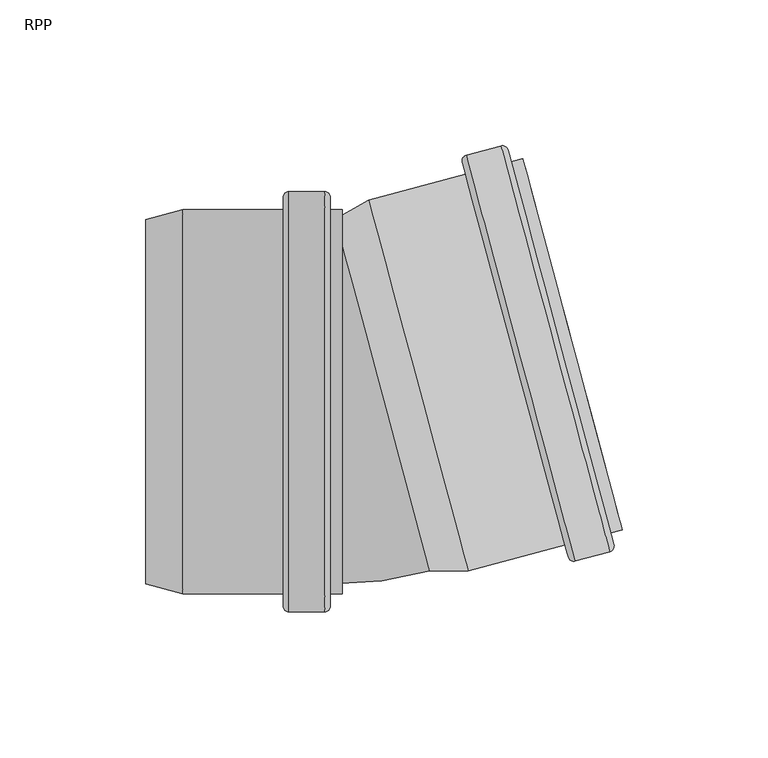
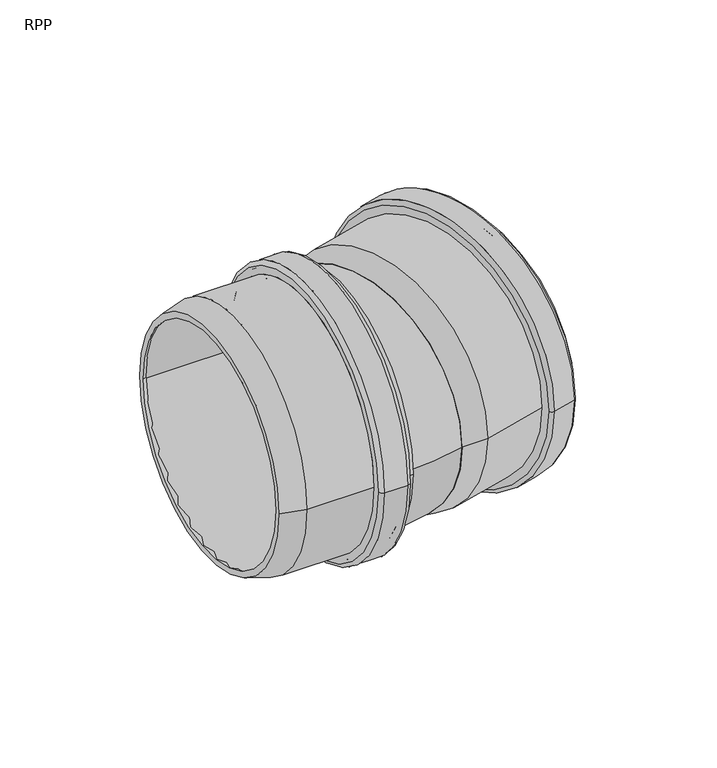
"""IFC4 building model written with IfcOpenShell, lengths in millimetres: pipe fitting geometry, RAUPIANO PLUS Bend : RPP."""

from ifc_helpers import new_model, si_unit, point, frame, origin, place, context, project, spatial, polyline, circle_curve, ellipse_curve, trimmed, source, transform, mapped, element, save
from ifc_brep_helpers import plane_surface, cylinder_surface, revolved_surface, advanced_brep


def rpp_2288d6af(model_context):
    return source(origin(), model_context, "Body", "AdvancedBrep", [
        advanced_brep(
        [(-22.5548911, -62.8, 0.0), (-22.5548911, 62.8, 0.0), (-59.6577956, 62.8, 0.0), (-59.6577956, -62.8, 0.0), (-22.0548911, -69.0, 0.0), (-22.0548911, 69.0, 0.0), (-22.5548911, 68.5, 0.0), (-22.5548911, -68.5, 0.0), (-13.0548911, -69.0, 0.0), (-13.0548911, 69.0, 0.0), (-12.5548911, -68.5, 0.0), (-12.5548911, 68.5, 0.0), (-5.3548911, -62.8, 0.0), (-5.3548911, 62.8, 0.0), (-12.5548911, 62.8, 0.0), (-12.5548911, -62.8, 0.0), (-9.4548911, -65.9, 0.0), (-9.4548911, 65.9, 0.0), (-5.3548911, 65.9, 0.0), (-5.3548911, -65.9, 0.0), (-11.4548911, -72.1, 0.0), (-11.4548911, 72.1, 0.0), (-9.4548911, 70.1, 0.0), (-9.4548911, -70.1, 0.0), (-23.6548911, -72.1, 0.0), (-23.6548911, 72.1, 0.0), (-25.6548911, -70.1, 0.0), (-25.6548911, 70.1, 0.0), (-60.0659183, -65.9, 0.0), (-60.0659183, 65.9, 0.0), (-25.6548911, 65.9, 0.0), (-25.6548911, -65.9, 0.0), (-72.7548911, -62.5, 0.0), (-72.7548911, 62.5, 0.0), (-72.7548911, 59.2906438, 0.0), (-72.7548911, -59.2906438, 0.0)],
        [
            (0, 1, circle_curve(frame((-22.5548911, 0.0, 0.0), z_axis=(1.0, 0.0, 0.0), x_axis=(0.0, 1.0, 0.0)), 62.8)),
            (1, 2),
            (2, 3, circle_curve(frame((-59.6577956, 0.0, 0.0), z_axis=(-1.0, 0.0, 0.0), x_axis=(0.0, 1.0, 0.0)), 62.8)),
            (3, 0),
            (4, 5, circle_curve(frame((-22.0548911, 0.0, 0.0), z_axis=(1.0, 0.0, 0.0), x_axis=(0.0, 1.0, 0.0)), 69.0)),
            (5, 6, circle_curve(frame((-22.0548911, 68.5, 0.0), z_axis=(0.0, 0.0, 1.0), x_axis=(0.0, -1.0, 0.0)), 0.5)),
            (6, 7, circle_curve(frame((-22.5548911, 0.0, 0.0), z_axis=(-1.0, 0.0, 0.0), x_axis=(0.0, 1.0, 0.0)), 68.5)),
            (7, 4, circle_curve(frame((-22.0548911, -68.5, 0.0), z_axis=(0.0, 0.0, 1.0), x_axis=(0.0, 1.0, 0.0)), 0.5)),
            (8, 9, circle_curve(frame((-13.0548911, 0.0, 0.0), z_axis=(1.0, 0.0, 0.0), x_axis=(0.0, 1.0, 0.0)), 69.0)),
            (9, 5),
            (4, 8),
            (10, 11, circle_curve(frame((-12.5548911, 0.0, 0.0), z_axis=(1.0, 0.0, 0.0), x_axis=(0.0, 1.0, 0.0)), 68.5)),
            (11, 9, circle_curve(frame((-13.0548911, 68.5, 0.0), z_axis=(0.0, 0.0, 1.0), x_axis=(0.0, -1.0, 0.0)), 0.5)),
            (8, 10, circle_curve(frame((-13.0548911, -68.5, 0.0), z_axis=(0.0, 0.0, 1.0), x_axis=(0.0, 1.0, 0.0)), 0.5)),
            (12, 13, circle_curve(frame((-5.3548911, 0.0, 0.0), z_axis=(1.0, 0.0, 0.0), x_axis=(0.0, 1.0, 0.0)), 62.8)),
            (13, 14),
            (14, 15, circle_curve(frame((-12.5548911, 0.0, 0.0), z_axis=(-1.0, 0.0, 0.0), x_axis=(0.0, 1.0, 0.0)), 62.8)),
            (15, 12),
            (16, 17, circle_curve(frame((-9.4548911, 0.0, 0.0), z_axis=(1.0, 0.0, 0.0), x_axis=(0.0, 1.0, 0.0)), 65.9)),
            (17, 18),
            (18, 19, circle_curve(frame((-5.3548911, 0.0, 0.0), z_axis=(-1.0, 0.0, 0.0), x_axis=(0.0, 1.0, 0.0)), 65.9)),
            (19, 16),
            (20, 21, circle_curve(frame((-11.4548911, 0.0, 0.0), z_axis=(1.0, 0.0, 0.0), x_axis=(0.0, 1.0, 0.0)), 72.1)),
            (21, 22, circle_curve(frame((-11.4548911, 70.1, 0.0), z_axis=(0.0, 0.0, -1.0), x_axis=(0.0, -1.0, 0.0)), 2.0)),
            (22, 23, circle_curve(frame((-9.4548911, 0.0, 0.0), z_axis=(-1.0, 0.0, 0.0), x_axis=(0.0, 1.0, 0.0)), 70.1)),
            (23, 20, circle_curve(frame((-11.4548911, -70.1, 0.0), z_axis=(0.0, 0.0, -1.0), x_axis=(0.0, 1.0, 0.0)), 2.0)),
            (24, 25, circle_curve(frame((-23.6548911, 0.0, 0.0), z_axis=(1.0, 0.0, 0.0), x_axis=(0.0, 1.0, 0.0)), 72.1)),
            (25, 21),
            (20, 24),
            (26, 27, circle_curve(frame((-25.6548911, 0.0, 0.0), z_axis=(1.0, 0.0, 0.0), x_axis=(0.0, 1.0, 0.0)), 70.1)),
            (27, 25, circle_curve(frame((-23.6548911, 70.1, 0.0), z_axis=(0.0, 0.0, -1.0), x_axis=(0.0, -1.0, 0.0)), 2.0)),
            (24, 26, circle_curve(frame((-23.6548911, -70.1, 0.0), z_axis=(0.0, 0.0, -1.0), x_axis=(0.0, 1.0, 0.0)), 2.0)),
            (28, 29, circle_curve(frame((-60.0659183, 0.0, 0.0), z_axis=(1.0, 0.0, 0.0), x_axis=(0.0, 1.0, 0.0)), 65.9)),
            (29, 30),
            (30, 31, circle_curve(frame((-25.6548911, 0.0, 0.0), z_axis=(-1.0, 0.0, 0.0), x_axis=(0.0, 1.0, 0.0)), 65.9)),
            (31, 28),
            (32, 33, circle_curve(frame((-72.7548911, 0.0, 0.0), z_axis=(1.0, 0.0, 0.0), x_axis=(0.0, 1.0, 0.0)), 62.5)),
            (33, 29),
            (28, 32),
            (2, 34),
            (34, 35, circle_curve(frame((-72.7548911, 0.0, 0.0), z_axis=(-1.0, 0.0, 0.0), x_axis=(0.0, 1.0, 0.0)), 59.2906438)),
            (35, 3),
            (1, 0, circle_curve(frame((-22.5548911, 0.0, 0.0), z_axis=(1.0, 0.0, 0.0), x_axis=(0.0, -1.0, 0.0)), 62.8)),
            (3, 2, circle_curve(frame((-59.6577956, 0.0, 0.0), z_axis=(-1.0, 0.0, 0.0), x_axis=(0.0, -1.0, 0.0)), 62.8)),
            (6, 7, circle_curve(frame((-22.5548911, 0.0, 0.0), z_axis=(1.0, 0.0, 0.0), x_axis=(0.0, -1.0, 0.0)), 68.5)),
            (5, 4, circle_curve(frame((-22.0548911, 0.0, 0.0), z_axis=(1.0, 0.0, 0.0), x_axis=(0.0, -1.0, 0.0)), 69.0)),
            (9, 8, circle_curve(frame((-13.0548911, 0.0, 0.0), z_axis=(1.0, 0.0, 0.0), x_axis=(0.0, -1.0, 0.0)), 69.0)),
            (11, 10, circle_curve(frame((-12.5548911, 0.0, 0.0), z_axis=(1.0, 0.0, 0.0), x_axis=(0.0, -1.0, 0.0)), 68.5)),
            (14, 15, circle_curve(frame((-12.5548911, 0.0, 0.0), z_axis=(1.0, 0.0, 0.0), x_axis=(0.0, -1.0, 0.0)), 62.8)),
            (13, 12, circle_curve(frame((-5.3548911, 0.0, 0.0), z_axis=(1.0, 0.0, 0.0), x_axis=(0.0, -1.0, 0.0)), 62.8)),
            (18, 19, circle_curve(frame((-5.3548911, 0.0, 0.0), z_axis=(1.0, 0.0, 0.0), x_axis=(0.0, -1.0, 0.0)), 65.9)),
            (17, 16, circle_curve(frame((-9.4548911, 0.0, 0.0), z_axis=(1.0, 0.0, 0.0), x_axis=(0.0, -1.0, 0.0)), 65.9)),
            (22, 23, circle_curve(frame((-9.4548911, 0.0, 0.0), z_axis=(1.0, 0.0, 0.0), x_axis=(0.0, -1.0, 0.0)), 70.1)),
            (21, 20, circle_curve(frame((-11.4548911, 0.0, 0.0), z_axis=(1.0, 0.0, 0.0), x_axis=(0.0, -1.0, 0.0)), 72.1)),
            (25, 24, circle_curve(frame((-23.6548911, 0.0, 0.0), z_axis=(1.0, 0.0, 0.0), x_axis=(0.0, -1.0, 0.0)), 72.1)),
            (27, 26, circle_curve(frame((-25.6548911, 0.0, 0.0), z_axis=(1.0, 0.0, 0.0), x_axis=(0.0, -1.0, 0.0)), 70.1)),
            (30, 31, circle_curve(frame((-25.6548911, 0.0, 0.0), z_axis=(1.0, 0.0, 0.0), x_axis=(0.0, -1.0, 0.0)), 65.9)),
            (29, 28, circle_curve(frame((-60.0659183, 0.0, 0.0), z_axis=(1.0, 0.0, 0.0), x_axis=(0.0, -1.0, 0.0)), 65.9)),
            (33, 32, circle_curve(frame((-72.7548911, 0.0, 0.0), z_axis=(1.0, 0.0, 0.0), x_axis=(0.0, -1.0, 0.0)), 62.5)),
            (34, 35, circle_curve(frame((-72.7548911, 0.0, 0.0), z_axis=(1.0, 0.0, 0.0), x_axis=(0.0, -1.0, 0.0)), 59.2906438)),
        ],
        [
            revolved_surface(polyline([(-59.6577956, 62.8, 0.0), (-22.5548911, 62.8, 0.0)]), (-72.7548911, 0.0, 0.0), (-1.0, 0.0, 0.0)),
            revolved_surface(trimmed(ellipse_curve(frame((-22.0548911, 68.5, 0.0), z_axis=(0.0, 0.0, -1.0), x_axis=(0.0, -1.0, 0.0)), 0.5, 0.5), [point((-22.5548911, 68.5, 0.0))], [point((-22.0548911, 69.0, 0.0))], True, "CARTESIAN"), (-72.7548911, 0.0, 0.0), (-1.0, 0.0, 0.0)),
            revolved_surface(polyline([(-22.0548911, 69.0, 0.0), (-13.054891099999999, 69.0, 0.0)]), (-72.7548911, 0.0, 0.0), (-1.0, 0.0, 0.0)),
            revolved_surface(trimmed(ellipse_curve(frame((-13.0548911, 68.5, 0.0), z_axis=(0.0, 0.0, -1.0), x_axis=(0.0, -1.0, 0.0)), 0.5, 0.5), [point((-13.0548911, 69.0, 0.0))], [point((-12.5548911, 68.5, 0.0))], True, "CARTESIAN"), (-72.7548911, 0.0, 0.0), (-1.0, 0.0, 0.0)),
            revolved_surface(polyline([(-12.554891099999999, 62.8, 0.0), (-5.354891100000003, 62.8, 0.0)]), (-72.7548911, 0.0, 0.0), (-1.0, 0.0, 0.0)),
            cylinder_surface(frame((-72.7548911, 0.0, 0.0), z_axis=(-1.0, 0.0, 0.0), x_axis=(0.0, 1.0, 0.0)), 65.9),
            revolved_surface(trimmed(ellipse_curve(frame((-11.4548911, 70.1, 0.0), z_axis=(0.0, 0.0, 1.0), x_axis=(0.0, -1.0, 0.0)), 2.0, 2.0), [point((-9.4548911, 70.1, 0.0))], [point((-11.4548911, 72.1, 0.0))], True, "CARTESIAN"), (-72.7548911, 0.0, 0.0), (-1.0, 0.0, 0.0)),
            cylinder_surface(frame((-72.7548911, 0.0, 0.0), z_axis=(-1.0, 0.0, 0.0), x_axis=(0.0, 1.0, 0.0)), 72.1),
            revolved_surface(trimmed(ellipse_curve(frame((-23.6548911, 70.1, 0.0), z_axis=(0.0, 0.0, 1.0), x_axis=(0.0, -1.0, 0.0)), 2.0, 2.0), [point((-23.6548911, 72.1, 0.0))], [point((-25.6548911, 70.1, 0.0))], True, "CARTESIAN"), (-72.7548911, 0.0, 0.0), (-1.0, 0.0, 0.0)),
            revolved_surface(polyline([(-60.0659183, 65.9, 0.0), (-72.7548911, 62.5, 0.0)]), (-72.7548911, 0.0, 0.0), (-1.0, 0.0, 0.0)),
            revolved_surface(polyline([(-72.7548911, 59.2906438, 0.0), (-59.6577956, 62.8, 0.0)]), (-72.7548911, 0.0, 0.0), (-1.0, 0.0, 0.0)),
            revolved_surface(polyline([(-59.6577956, -62.8, 0.0), (-22.5548911, -62.8, 0.0)]), (-72.7548911, 0.0, 0.0), (-1.0, 0.0, 0.0)),
            plane_surface(frame((-22.5548911, 0.0, 0.0), z_axis=(1.0, 0.0, 0.0), x_axis=(0.0, -1.0, 0.0))),
            revolved_surface(trimmed(ellipse_curve(frame((-22.0548911, -68.5, 0.0), z_axis=(0.0, 0.0, 1.0), x_axis=(0.0, 1.0, 0.0)), 0.5, 0.5), [point((-22.5548911, -68.5, 0.0))], [point((-22.0548911, -69.0, 0.0))], True, "CARTESIAN"), (-72.7548911, 0.0, 0.0), (-1.0, 0.0, 0.0)),
            revolved_surface(polyline([(-22.0548911, -69.0, 0.0), (-13.054891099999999, -69.0, 0.0)]), (-72.7548911, 0.0, 0.0), (-1.0, 0.0, 0.0)),
            revolved_surface(trimmed(ellipse_curve(frame((-13.0548911, -68.5, 0.0), z_axis=(0.0, 0.0, 1.0), x_axis=(0.0, 1.0, 0.0)), 0.5, 0.5), [point((-13.0548911, -69.0, 0.0))], [point((-12.5548911, -68.5, 0.0))], True, "CARTESIAN"), (-72.7548911, 0.0, 0.0), (-1.0, 0.0, 0.0)),
            plane_surface(frame((-12.5548911, 0.0, 0.0), z_axis=(-1.0, 0.0, 0.0), x_axis=(0.0, -1.0, 0.0))),
            revolved_surface(polyline([(-12.554891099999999, -62.8, 0.0), (-5.354891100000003, -62.8, 0.0)]), (-72.7548911, 0.0, 0.0), (-1.0, 0.0, 0.0)),
            plane_surface(frame((-5.3548911, 0.0, 0.0), z_axis=(1.0, 0.0, 0.0), x_axis=(0.0, -1.0, 0.0))),
            cylinder_surface(frame((-72.7548911, 0.0, 0.0), z_axis=(-1.0, 0.0, 0.0), x_axis=(0.0, -1.0, 0.0)), 65.9),
            plane_surface(frame((-9.4548911, 0.0, 0.0), z_axis=(1.0, 0.0, 0.0), x_axis=(0.0, -1.0, 0.0))),
            revolved_surface(trimmed(ellipse_curve(frame((-11.4548911, -70.1, 0.0), z_axis=(0.0, 0.0, -1.0), x_axis=(0.0, 1.0, 0.0)), 2.0, 2.0), [point((-9.4548911, -70.1, 0.0))], [point((-11.4548911, -72.1, 0.0))], True, "CARTESIAN"), (-72.7548911, 0.0, 0.0), (-1.0, 0.0, 0.0)),
            cylinder_surface(frame((-72.7548911, 0.0, 0.0), z_axis=(-1.0, 0.0, 0.0), x_axis=(0.0, -1.0, 0.0)), 72.1),
            revolved_surface(trimmed(ellipse_curve(frame((-23.6548911, -70.1, 0.0), z_axis=(0.0, 0.0, -1.0), x_axis=(0.0, 1.0, 0.0)), 2.0, 2.0), [point((-23.6548911, -72.1, 0.0))], [point((-25.6548911, -70.1, 0.0))], True, "CARTESIAN"), (-72.7548911, 0.0, 0.0), (-1.0, 0.0, 0.0)),
            plane_surface(frame((-25.6548911, 0.0, 0.0), z_axis=(-1.0, 0.0, 0.0), x_axis=(0.0, -1.0, 0.0))),
            revolved_surface(polyline([(-60.0659183, -65.9, 0.0), (-72.7548911, -62.5, 0.0)]), (-72.7548911, 0.0, 0.0), (-1.0, 0.0, 0.0)),
            plane_surface(frame((-72.7548911, 0.0, 0.0), z_axis=(-1.0, 0.0, 0.0), x_axis=(0.0, -1.0, 0.0))),
            revolved_surface(polyline([(-72.7548911, -59.2906438, 0.0), (-59.6577956, -62.8, 0.0)]), (-72.7548911, 0.0, 0.0), (-1.0, 0.0, 0.0)),
        ],
        [
            (0, [[1, 2, 3, 4]]),
            (1, [[5, 6, 7, 8]]),
            (2, [[9, 10, -5, 11]]),
            (3, [[12, 13, -9, 14]]),
            (4, [[15, 16, 17, 18]]),
            (5, [[19, 20, 21, 22]]),
            (6, [[23, 24, 25, 26]]),
            (7, [[27, 28, -23, 29]]),
            (8, [[30, 31, -27, 32]]),
            (5, [[33, 34, 35, 36]]),
            (9, [[37, 38, -33, 39]]),
            (10, [[-3, 40, 41, 42]]),
            (11, [[43, -4, 44, -2]]),
            (12, [[45, -7], [-43, -1]]),
            (13, [[46, -8, -45, -6]]),
            (14, [[47, -11, -46, -10]]),
            (15, [[48, -14, -47, -13]]),
            (16, [[-48, -12], [49, -17]]),
            (17, [[50, -18, -49, -16]]),
            (18, [[51, -21], [-50, -15]]),
            (19, [[52, -22, -51, -20]]),
            (20, [[53, -25], [-52, -19]]),
            (21, [[54, -26, -53, -24]]),
            (22, [[55, -29, -54, -28]]),
            (23, [[56, -32, -55, -31]]),
            (24, [[-56, -30], [57, -35]]),
            (19, [[58, -36, -57, -34]]),
            (25, [[59, -39, -58, -38]]),
            (26, [[-59, -37], [60, -41]]),
            (27, [[-44, -42, -60, -40]]),
        ],
    ),
        advanced_brep(
        [(23.8021232, -55.0044316, 0.0), (-6.8889724, 59.5362967, 0.0), (4.8535622, 66.3158522, 0.0), (37.3612342, -55.0044316, 0.0), (37.769357, -58.1044316, 0.0), (3.6570068, 69.2045923, 0.0), (-7.7196149, 62.6362967, 0.0), (24.6327657, -58.1044316, 0.0), (71.0078569, -49.1982024, 0.0), (36.8955068, 78.1108215, 0.0), (86.3286817, -51.5117121, 0.0), (49.0069754, 87.7747921, 0.0), (37.2226803, 84.6171997, 0.0), (74.5443866, -54.6693044, 0.0), (90.6161512, -43.9441758, 0.0), (56.503801, 83.3648481, 0.0), (52.5435051, 82.3036901, 0.0), (86.6558553, -45.0053338, 0.0), (82.8591462, -42.8133028, 0.0), (50.3514741, 78.506981, 0.0), (57.3061401, 80.3704781, 0.0), (89.8138121, -40.9498057, 0.0), (75.2875289, -51.2608239, 0.0), (39.5705007, 82.0369402, 0.0), (48.2638331, 84.3663116, 0.0), (83.9808614, -48.9314525, 0.0), (40.6922159, 75.9187905, 0.0), (73.1998879, -45.4014933, 0.0), (35.8084668, 82.16771, 0.0), (72.0948969, -53.2550908, 0.0), (87.7428953, -49.0622223, 0.0), (51.4564652, 86.3605785, 0.0), (48.8762056, 84.0127582, 0.0), (84.3344147, -48.31908, 0.0), (74.6751565, -50.9072705, 0.0), (39.2169473, 81.4245677, 0.0)],
        [
            (0, 1, circle_curve(frame((8.4565754, 2.2659326, 0.0), z_axis=(-0.965925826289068, -0.25881904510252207, 0.0), x_axis=(-0.25881904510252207, 0.965925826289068, 0.0)), 59.2906438)),
            (1, 2),
            (2, 3, circle_curve(frame((21.1073982, 5.6557103, 0.0), z_axis=(0.965925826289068, 0.25881904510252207, 0.0), x_axis=(-0.25881904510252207, 0.965925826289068, 0.0)), 62.8)),
            (3, 0),
            (4, 5, circle_curve(frame((20.7131819, 5.5500804, 0.0), z_axis=(-0.965925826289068, -0.25881904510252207, 0.0), x_axis=(-0.25881904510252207, 0.965925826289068, 0.0)), 65.9)),
            (5, 6),
            (6, 7, circle_curve(frame((8.4565754, 2.2659326, 0.0), z_axis=(0.965925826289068, 0.25881904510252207, 0.0), x_axis=(-0.25881904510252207, 0.965925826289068, 0.0)), 62.5)),
            (7, 4),
            (8, 9, circle_curve(frame((53.9516818, 14.4563096, 0.0), z_axis=(-0.965925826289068, -0.25881904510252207, 0.0), x_axis=(-0.25881904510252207, 0.965925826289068, 0.0)), 65.9)),
            (9, 5),
            (4, 8),
            (10, 11, circle_curve(frame((67.6678286, 18.13154, 0.0), z_axis=(-0.965925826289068, -0.25881904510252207, 0.0), x_axis=(-0.25881904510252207, 0.965925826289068, 0.0)), 72.1)),
            (11, 12),
            (12, 13, circle_curve(frame((55.8835335, 14.9739477, 0.0), z_axis=(0.965925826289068, 0.25881904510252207, 0.0), x_axis=(-0.25881904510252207, 0.965925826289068, 0.0)), 72.1)),
            (13, 10),
            (14, 15, circle_curve(frame((73.5599761, 19.7103362, 0.0), z_axis=(-0.965925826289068, -0.25881904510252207, 0.0), x_axis=(-0.25881904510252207, 0.965925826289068, 0.0)), 65.9)),
            (15, 16),
            (16, 17, circle_curve(frame((69.5996802, 18.6491781, 0.0), z_axis=(0.965925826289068, 0.25881904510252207, 0.0), x_axis=(-0.25881904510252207, 0.965925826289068, 0.0)), 65.9)),
            (17, 14),
            (18, 19, circle_curve(frame((66.6053102, 17.8468391, 0.0), z_axis=(-0.965925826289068, -0.25881904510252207, 0.0), x_axis=(-0.25881904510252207, 0.965925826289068, 0.0)), 62.8)),
            (19, 20),
            (20, 21, circle_curve(frame((73.5599761, 19.7103362, 0.0), z_axis=(0.965925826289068, 0.25881904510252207, 0.0), x_axis=(-0.25881904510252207, 0.965925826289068, 0.0)), 62.8)),
            (21, 18),
            (22, 23, circle_curve(frame((57.4290148, 15.3880581, 0.0), z_axis=(-0.965925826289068, -0.25881904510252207, 0.0), x_axis=(-0.25881904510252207, 0.965925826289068, 0.0)), 69.0)),
            (23, 24),
            (24, 25, circle_curve(frame((66.1223472, 17.7174295, 0.0), z_axis=(0.965925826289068, 0.25881904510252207, 0.0), x_axis=(-0.25881904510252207, 0.965925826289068, 0.0)), 69.0)),
            (25, 22),
            (2, 26),
            (26, 27, circle_curve(frame((56.9460519, 15.2586486, 0.0), z_axis=(0.965925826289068, 0.25881904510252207, 0.0), x_axis=(-0.25881904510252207, 0.965925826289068, 0.0)), 62.8)),
            (27, 3),
            (1, 0, circle_curve(frame((8.4565754, 2.2659326, 0.0), z_axis=(-0.965925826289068, -0.25881904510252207, 0.0), x_axis=(0.25881904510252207, -0.965925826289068, 0.0)), 59.2906438)),
            (3, 2, circle_curve(frame((21.1073982, 5.6557103, 0.0), z_axis=(0.965925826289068, 0.25881904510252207, 0.0), x_axis=(0.25881904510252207, -0.965925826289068, 0.0)), 62.8)),
            (6, 7, circle_curve(frame((8.4565754, 2.2659326, 0.0), z_axis=(-0.965925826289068, -0.25881904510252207, 0.0), x_axis=(0.25881904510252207, -0.965925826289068, 0.0)), 62.5)),
            (5, 4, circle_curve(frame((20.7131819, 5.5500804, 0.0), z_axis=(-0.965925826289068, -0.25881904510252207, 0.0), x_axis=(0.25881904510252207, -0.965925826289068, 0.0)), 65.9)),
            (9, 8, circle_curve(frame((53.9516818, 14.4563096, 0.0), z_axis=(-0.965925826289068, -0.25881904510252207, 0.0), x_axis=(0.25881904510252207, -0.965925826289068, 0.0)), 65.9)),
            (28, 29, circle_curve(frame((53.9516818, 14.4563096, 0.0), z_axis=(-0.965925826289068, -0.25881904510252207, 0.0), x_axis=(0.25881904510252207, -0.965925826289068, 0.0)), 70.1)),
            (29, 28, circle_curve(frame((53.9516818, 14.4563096, 0.0), z_axis=(-0.965925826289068, -0.25881904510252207, 0.0), x_axis=(-0.25881904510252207, 0.965925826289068, 0.0)), 70.1)),
            (11, 10, circle_curve(frame((67.6678286, 18.13154, 0.0), z_axis=(-0.965925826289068, -0.25881904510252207, 0.0), x_axis=(0.25881904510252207, -0.965925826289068, 0.0)), 72.1)),
            (13, 12, circle_curve(frame((55.8835335, 14.9739477, 0.0), z_axis=(0.965925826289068, 0.25881904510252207, 0.0), x_axis=(0.25881904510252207, -0.965925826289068, 0.0)), 72.1)),
            (30, 31, circle_curve(frame((69.5996802, 18.6491781, 0.0), z_axis=(0.965925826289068, 0.25881904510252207, 0.0), x_axis=(0.25881904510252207, -0.965925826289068, 0.0)), 70.1)),
            (31, 30, circle_curve(frame((69.5996802, 18.6491781, 0.0), z_axis=(0.965925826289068, 0.25881904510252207, 0.0), x_axis=(-0.25881904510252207, 0.965925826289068, 0.0)), 70.1)),
            (16, 17, circle_curve(frame((69.5996802, 18.6491781, 0.0), z_axis=(-0.965925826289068, -0.25881904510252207, 0.0), x_axis=(0.25881904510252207, -0.965925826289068, 0.0)), 65.9)),
            (15, 14, circle_curve(frame((73.5599761, 19.7103362, 0.0), z_axis=(-0.965925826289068, -0.25881904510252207, 0.0), x_axis=(0.25881904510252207, -0.965925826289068, 0.0)), 65.9)),
            (20, 21, circle_curve(frame((73.5599761, 19.7103362, 0.0), z_axis=(-0.965925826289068, -0.25881904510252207, 0.0), x_axis=(0.25881904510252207, -0.965925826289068, 0.0)), 62.8)),
            (19, 18, circle_curve(frame((66.6053102, 17.8468391, 0.0), z_axis=(-0.965925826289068, -0.25881904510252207, 0.0), x_axis=(0.25881904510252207, -0.965925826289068, 0.0)), 62.8)),
            (32, 33, circle_curve(frame((66.6053102, 17.8468391, 0.0), z_axis=(-0.965925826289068, -0.25881904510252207, 0.0), x_axis=(0.25881904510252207, -0.965925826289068, 0.0)), 68.5)),
            (33, 32, circle_curve(frame((66.6053102, 17.8468391, 0.0), z_axis=(-0.965925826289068, -0.25881904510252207, 0.0), x_axis=(-0.25881904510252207, 0.965925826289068, 0.0)), 68.5)),
            (23, 22, circle_curve(frame((57.4290148, 15.3880581, 0.0), z_axis=(-0.965925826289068, -0.25881904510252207, 0.0), x_axis=(0.25881904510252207, -0.965925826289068, 0.0)), 69.0)),
            (25, 24, circle_curve(frame((66.1223472, 17.7174295, 0.0), z_axis=(0.965925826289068, 0.25881904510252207, 0.0), x_axis=(0.25881904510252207, -0.965925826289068, 0.0)), 69.0)),
            (34, 35, circle_curve(frame((56.9460519, 15.2586486, 0.0), z_axis=(0.965925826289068, 0.25881904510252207, 0.0), x_axis=(0.25881904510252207, -0.965925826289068, 0.0)), 68.5)),
            (35, 34, circle_curve(frame((56.9460519, 15.2586486, 0.0), z_axis=(0.965925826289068, 0.25881904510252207, 0.0), x_axis=(-0.25881904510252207, 0.965925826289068, 0.0)), 68.5)),
            (26, 27, circle_curve(frame((56.9460519, 15.2586486, 0.0), z_axis=(-0.965925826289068, -0.25881904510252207, 0.0), x_axis=(0.25881904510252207, -0.965925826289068, 0.0)), 62.8)),
            (12, 28, circle_curve(frame((37.7403184, 82.6853481, 0.0), z_axis=(0.0, 0.0, 1.0), x_axis=(0.258819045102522, -0.965925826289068, 0.0)), 2.0)),
            (29, 13, circle_curve(frame((74.0267485, -52.7374528, 0.0), z_axis=(0.0, 0.0, 1.0), x_axis=(-0.2588190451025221, 0.965925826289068, 0.0)), 2.0)),
            (31, 11, circle_curve(frame((49.5246135, 85.8429404, 0.0), z_axis=(0.0, 0.0, 1.0), x_axis=(0.258819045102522, -0.965925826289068, 0.0)), 2.0)),
            (10, 30, circle_curve(frame((85.8110436, -49.5798604, 0.0), z_axis=(0.0, 0.0, 1.0), x_axis=(-0.2588190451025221, 0.965925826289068, 0.0)), 2.0)),
            (24, 32, circle_curve(frame((48.3932426, 83.8833486, 0.0), z_axis=(0.0, 0.0, -1.0), x_axis=(0.258819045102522, -0.965925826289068, 0.0)), 0.5)),
            (33, 25, circle_curve(frame((83.8514518, -48.4484896, 0.0), z_axis=(0.0, 0.0, -1.0), x_axis=(-0.2588190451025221, 0.965925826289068, 0.0)), 0.5)),
            (35, 23, circle_curve(frame((39.6999102, 81.5539772, 0.0), z_axis=(0.0, 0.0, -1.0), x_axis=(0.258819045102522, -0.965925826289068, 0.0)), 0.5)),
            (22, 34, circle_curve(frame((75.1581194, -50.777861, 0.0), z_axis=(0.0, 0.0, -1.0), x_axis=(-0.2588190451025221, 0.965925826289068, 0.0)), 0.5)),
        ],
        [
            revolved_surface(polyline([(4.8535622, 66.3158522, 0.0), (-6.8889724, 59.5362967, 0.0)]), (8.4565754, 2.2659326, 0.0), (0.965925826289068, 0.25881904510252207, 0.0)),
            revolved_surface(polyline([(-7.7196149, 62.6362967, 0.0), (3.6570068, 69.2045923, 0.0)]), (8.4565754, 2.2659326, 0.0), (0.965925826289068, 0.25881904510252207, 0.0)),
            cylinder_surface(frame((8.4565754, 2.2659326, 0.0), z_axis=(0.965925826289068, 0.25881904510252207, 0.0), x_axis=(-0.25881904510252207, 0.965925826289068, 0.0)), 65.9),
            cylinder_surface(frame((8.4565754, 2.2659326, 0.0), z_axis=(0.965925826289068, 0.25881904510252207, 0.0), x_axis=(-0.25881904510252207, 0.965925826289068, 0.0)), 72.1),
            revolved_surface(polyline([(57.30614008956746, 80.3704781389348, 0.0), (50.3514740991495, 78.5069810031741, 0.0)]), (8.4565754, 2.2659326, 0.0), (0.965925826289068, 0.25881904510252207, 0.0)),
            revolved_surface(polyline([(48.263833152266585, 84.3663116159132, 0.0), (39.57050065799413, 82.03694019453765, 0.0)]), (8.4565754, 2.2659326, 0.0), (0.965925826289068, 0.25881904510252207, 0.0)),
            revolved_surface(polyline([(40.692215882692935, 75.91879056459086, 0.0), (4.853562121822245, 66.3158522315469, 0.0)]), (8.4565754, 2.2659326, 0.0), (0.965925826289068, 0.25881904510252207, 0.0)),
            revolved_surface(polyline([(37.3612342, -55.0044316, 0.0), (23.8021232, -55.0044316, 0.0)]), (8.4565754, 2.2659326, 0.0), (0.965925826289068, 0.25881904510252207, 0.0)),
            plane_surface(frame((8.4565754, 2.2659326, 0.0), z_axis=(-0.965925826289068, -0.25881904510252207, 0.0), x_axis=(0.25881904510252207, -0.965925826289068, 0.0))),
            revolved_surface(polyline([(24.6327657, -58.1044316, 0.0), (37.769357, -58.1044316, 0.0)]), (8.4565754, 2.2659326, 0.0), (0.965925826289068, 0.25881904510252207, 0.0)),
            cylinder_surface(frame((8.4565754, 2.2659326, 0.0), z_axis=(0.965925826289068, 0.25881904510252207, 0.0), x_axis=(0.25881904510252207, -0.965925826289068, 0.0)), 65.9),
            plane_surface(frame((53.9516818, 14.4563096, 0.0), z_axis=(-0.965925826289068, -0.25881904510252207, 0.0), x_axis=(0.25881904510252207, -0.965925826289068, 0.0))),
            cylinder_surface(frame((8.4565754, 2.2659326, 0.0), z_axis=(0.965925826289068, 0.25881904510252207, 0.0), x_axis=(0.25881904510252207, -0.965925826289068, 0.0)), 72.1),
            plane_surface(frame((69.5996802, 18.6491781, 0.0), z_axis=(0.965925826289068, 0.25881904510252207, 0.0), x_axis=(0.25881904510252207, -0.965925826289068, 0.0))),
            plane_surface(frame((73.5599761, 19.7103362, 0.0), z_axis=(0.965925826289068, 0.25881904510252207, 0.0), x_axis=(0.25881904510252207, -0.965925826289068, 0.0))),
            revolved_surface(polyline([(89.81381215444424, -40.94980564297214, 0.0), (82.85914616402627, -42.81330277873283, 0.0)]), (8.4565754, 2.2659326, 0.0), (0.965925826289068, 0.25881904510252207, 0.0)),
            plane_surface(frame((66.6053102, 17.8468391, 0.0), z_axis=(-0.965925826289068, -0.25881904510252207, 0.0), x_axis=(0.25881904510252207, -0.965925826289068, 0.0))),
            revolved_surface(polyline([(83.98086137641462, -48.93145241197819, 0.0), (75.28752888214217, -51.26082383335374, 0.0)]), (8.4565754, 2.2659326, 0.0), (0.965925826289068, 0.25881904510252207, 0.0)),
            plane_surface(frame((56.9460519, 15.2586486, 0.0), z_axis=(0.965925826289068, 0.25881904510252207, 0.0), x_axis=(0.25881904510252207, -0.965925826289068, 0.0))),
            revolved_surface(polyline([(73.1998879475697, -45.40149321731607, 0.0), (37.361234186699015, -55.004431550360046, 0.0)]), (8.4565754, 2.2659326, 0.0), (0.965925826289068, 0.25881904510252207, 0.0)),
            revolved_surface(trimmed(ellipse_curve(frame((37.7403184, 82.6853481, 0.0), z_axis=(0.0, 0.0, -1.0), x_axis=(0.258819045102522, -0.965925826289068, 0.0)), 2.0, 2.0), [point((35.8084668, 82.16771, 0.0))], [point((37.2226803, 84.6171997, 0.0))], True, "CARTESIAN"), (8.4565754, 2.2659326, 0.0), (0.965925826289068, 0.25881904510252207, 0.0)),
            revolved_surface(trimmed(ellipse_curve(frame((49.5246135, 85.8429404, 0.0), z_axis=(0.0, 0.0, -1.0), x_axis=(0.258819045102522, -0.965925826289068, 0.0)), 2.0, 2.0), [point((49.0069754, 87.7747921, 0.0))], [point((51.4564652, 86.3605785, 0.0))], True, "CARTESIAN"), (8.4565754, 2.2659326, 0.0), (0.965925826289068, 0.25881904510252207, 0.0)),
            revolved_surface(trimmed(ellipse_curve(frame((48.3932426, 83.8833486, 0.0), z_axis=(0.0, 0.0, 1.0), x_axis=(0.258819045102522, -0.965925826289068, 0.0)), 0.5, 0.5), [point((48.8762056, 84.0127582, 0.0))], [point((48.2638331, 84.3663116, 0.0))], True, "CARTESIAN"), (8.4565754, 2.2659326, 0.0), (0.965925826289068, 0.25881904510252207, 0.0)),
            revolved_surface(trimmed(ellipse_curve(frame((39.6999102, 81.5539772, 0.0), z_axis=(0.0, 0.0, 1.0), x_axis=(0.258819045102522, -0.965925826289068, 0.0)), 0.5, 0.5), [point((39.5705007, 82.0369402, 0.0))], [point((39.2169473, 81.4245677, 0.0))], True, "CARTESIAN"), (8.4565754, 2.2659326, 0.0), (0.965925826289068, 0.25881904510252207, 0.0)),
            revolved_surface(trimmed(ellipse_curve(frame((74.0267485, -52.7374528, 0.0), z_axis=(0.0, 0.0, 1.0), x_axis=(-0.2588190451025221, 0.965925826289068, 0.0)), 2.0, 2.0), [point((72.0948969, -53.2550908, 0.0))], [point((74.5443866, -54.6693044, 0.0))], True, "CARTESIAN"), (8.4565754, 2.2659326, 0.0), (0.965925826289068, 0.25881904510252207, 0.0)),
            revolved_surface(trimmed(ellipse_curve(frame((85.8110436, -49.5798604, 0.0), z_axis=(0.0, 0.0, 1.0), x_axis=(-0.2588190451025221, 0.965925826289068, 0.0)), 2.0, 2.0), [point((86.3286817, -51.5117121, 0.0))], [point((87.7428953, -49.0622223, 0.0))], True, "CARTESIAN"), (8.4565754, 2.2659326, 0.0), (0.965925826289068, 0.25881904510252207, 0.0)),
            revolved_surface(trimmed(ellipse_curve(frame((83.8514518, -48.4484896, 0.0), z_axis=(0.0, 0.0, -1.0), x_axis=(-0.2588190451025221, 0.965925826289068, 0.0)), 0.5, 0.5), [point((84.3344147, -48.31908, 0.0))], [point((83.9808614, -48.9314525, 0.0))], True, "CARTESIAN"), (8.4565754, 2.2659326, 0.0), (0.965925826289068, 0.25881904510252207, 0.0)),
            revolved_surface(trimmed(ellipse_curve(frame((75.1581194, -50.777861, 0.0), z_axis=(0.0, 0.0, -1.0), x_axis=(-0.2588190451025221, 0.965925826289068, 0.0)), 0.5, 0.5), [point((75.2875289, -51.2608239, 0.0))], [point((74.6751565, -50.9072705, 0.0))], True, "CARTESIAN"), (8.4565754, 2.2659326, 0.0), (0.965925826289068, 0.25881904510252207, 0.0)),
        ],
        [
            (0, [[1, 2, 3, 4]]),
            (1, [[5, 6, 7, 8]]),
            (2, [[9, 10, -5, 11]]),
            (3, [[12, 13, 14, 15]]),
            (2, [[16, 17, 18, 19]]),
            (4, [[20, 21, 22, 23]]),
            (5, [[24, 25, 26, 27]]),
            (6, [[-3, 28, 29, 30]]),
            (7, [[31, -4, 32, -2]]),
            (8, [[33, -7], [-31, -1]]),
            (9, [[34, -8, -33, -6]]),
            (10, [[35, -11, -34, -10]]),
            (11, [[36, 37], [-35, -9]]),
            (12, [[38, -15, 39, -13]]),
            (13, [[40, 41], [42, -18]]),
            (10, [[43, -19, -42, -17]]),
            (14, [[-43, -16], [44, -22]]),
            (15, [[45, -23, -44, -21]]),
            (16, [[46, 47], [-45, -20]]),
            (17, [[48, -27, 49, -25]]),
            (18, [[50, 51], [52, -29]]),
            (19, [[-32, -30, -52, -28]]),
            (20, [[-14, 53, -37, 54]]),
            (21, [[-41, 55, -12, 56]]),
            (22, [[-26, 57, -47, 58]]),
            (23, [[-51, 59, -24, 60]]),
            (24, [[-39, -54, -36, -53]]),
            (25, [[-40, -56, -38, -55]]),
            (26, [[-49, -58, -46, -57]]),
            (27, [[-50, -60, -48, -59]]),
        ],
    ),
        advanced_brep(
        [(-8.7548911, 59.4, 0.0), (-8.7548911, -59.4, 0.0), (-72.7548911, -59.4, 0.0), (-72.7548911, 59.4, 0.0), (-64.1711742, 62.5, 0.0), (-64.1711742, -62.5, 0.0), (-8.7548911, -62.5, 0.0), (-8.7548911, 62.5, 0.0), (-72.7548911, 60.2, 0.0), (-72.7548911, -60.2, 0.0)],
        [
            (0, 1, circle_curve(frame((-8.7548911, 0.0, 0.0), z_axis=(1.0, 0.0, 0.0), x_axis=(0.0, -1.0, 0.0)), 59.4)),
            (1, 2),
            (2, 3, circle_curve(frame((-72.7548911, 0.0, 0.0), z_axis=(-1.0, 0.0, 0.0), x_axis=(0.0, -1.0, 0.0)), 59.4)),
            (3, 0),
            (4, 5, circle_curve(frame((-64.1711742, 0.0, 0.0), z_axis=(1.0, 0.0, 0.0), x_axis=(0.0, -1.0, 0.0)), 62.5)),
            (5, 6),
            (6, 7, circle_curve(frame((-8.7548911, 0.0, 0.0), z_axis=(-1.0, 0.0, 0.0), x_axis=(0.0, -1.0, 0.0)), 62.5)),
            (7, 4),
            (8, 9, circle_curve(frame((-72.7548911, 0.0, 0.0), z_axis=(1.0, 0.0, 0.0), x_axis=(0.0, -1.0, 0.0)), 60.2)),
            (9, 5),
            (4, 8),
            (1, 0, circle_curve(frame((-8.7548911, 0.0, 0.0), z_axis=(1.0, 0.0, 0.0), x_axis=(0.0, 1.0, 0.0)), 59.4)),
            (3, 2, circle_curve(frame((-72.7548911, 0.0, 0.0), z_axis=(-1.0, 0.0, 0.0), x_axis=(0.0, 1.0, 0.0)), 59.4)),
            (6, 7, circle_curve(frame((-8.7548911, 0.0, 0.0), z_axis=(1.0, 0.0, 0.0), x_axis=(0.0, 1.0, 0.0)), 62.5)),
            (5, 4, circle_curve(frame((-64.1711742, 0.0, 0.0), z_axis=(1.0, 0.0, 0.0), x_axis=(0.0, 1.0, 0.0)), 62.5)),
            (9, 8, circle_curve(frame((-72.7548911, 0.0, 0.0), z_axis=(1.0, 0.0, 0.0), x_axis=(0.0, 1.0, 0.0)), 60.2)),
        ],
        [
            revolved_surface(polyline([(-72.7548911, -59.4, 0.0), (-8.7548911, -59.4, 0.0)]), (-8.7548911, 0.0, 0.0), (-1.0, 0.0, 0.0)),
            cylinder_surface(frame((-8.7548911, 0.0, 0.0), z_axis=(-1.0, 0.0, 0.0), x_axis=(0.0, -1.0, 0.0)), 62.5),
            revolved_surface(polyline([(-64.1711742, -62.5, 0.0), (-72.7548911, -60.2, 0.0)]), (-8.7548911, 0.0, 0.0), (-1.0, 0.0, 0.0)),
            revolved_surface(polyline([(-72.7548911, 59.4, 0.0), (-8.7548911, 59.4, 0.0)]), (-8.7548911, 0.0, 0.0), (-1.0, 0.0, 0.0)),
            plane_surface(frame((-8.7548911, 0.0, 0.0), z_axis=(1.0, 0.0, 0.0), x_axis=(0.0, 1.0, 0.0))),
            cylinder_surface(frame((-8.7548911, 0.0, 0.0), z_axis=(-1.0, 0.0, 0.0), x_axis=(0.0, 1.0, 0.0)), 62.5),
            revolved_surface(polyline([(-64.1711742, 62.5, 0.0), (-72.7548911, 60.2, 0.0)]), (-8.7548911, 0.0, 0.0), (-1.0, 0.0, 0.0)),
            plane_surface(frame((-72.7548911, 0.0, 0.0), z_axis=(-1.0, 0.0, 0.0), x_axis=(0.0, 1.0, 0.0))),
        ],
        [
            (0, [[1, 2, 3, 4]]),
            (1, [[5, 6, 7, 8]]),
            (2, [[9, 10, -5, 11]]),
            (3, [[12, -4, 13, -2]]),
            (4, [[14, -7], [-12, -1]]),
            (5, [[15, -8, -14, -6]]),
            (6, [[16, -11, -15, -10]]),
            (7, [[-16, -9], [-13, -3]]),
        ],
    ),
        advanced_brep(
        [(-8.7548911, -62.5, 0.0), (-8.7548911, 62.5, 0.0), (-8.7548911, -59.4, 0.0), (-8.7548911, 59.4, 0.0), (24.6327657, -58.1044316, 0.0), (-7.7196149, 62.6362967, 0.0), (23.8304267, -55.1100615, 0.0), (-6.9172759, 59.6419266, 0.0)],
        [
            (0, 1, circle_curve(frame((-8.7548911, 0.0, 0.0), z_axis=(-1.0, 0.0, 0.0), x_axis=(0.0, 1.0, 0.0)), 62.5)),
            (1, 0, circle_curve(frame((-8.7548911, 0.0, 0.0), z_axis=(-1.0, 0.0, 0.0), x_axis=(0.0, 1.0, 0.0)), 62.5)),
            (2, 3, circle_curve(frame((-8.7548911, 0.0, 0.0), z_axis=(1.0, 0.0, 0.0), x_axis=(0.0, 1.0, 0.0)), 59.4)),
            (3, 2, circle_curve(frame((-8.7548911, 0.0, 0.0), z_axis=(1.0, 0.0, 0.0), x_axis=(0.0, 1.0, 0.0)), 59.4)),
            (4, 5, circle_curve(frame((8.4565754, 2.2659326, 0.0), z_axis=(0.9659258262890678, 0.25881904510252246, 0.0), x_axis=(-0.25881904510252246, 0.9659258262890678, 0.0)), 62.5)),
            (5, 4, circle_curve(frame((8.4565754, 2.2659326, 0.0), z_axis=(0.9659258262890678, 0.25881904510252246, 0.0), x_axis=(-0.25881904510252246, 0.9659258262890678, 0.0)), 62.5)),
            (6, 7, circle_curve(frame((8.4565754, 2.2659326, 0.0), z_axis=(-0.9659258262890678, -0.25881904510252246, 0.0), x_axis=(-0.25881904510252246, 0.9659258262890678, 0.0)), 59.4)),
            (7, 6, circle_curve(frame((8.4565754, 2.2659326, 0.0), z_axis=(-0.9659258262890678, -0.25881904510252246, 0.0), x_axis=(-0.25881904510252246, 0.9659258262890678, 0.0)), 59.4)),
            (7, 3, circle_curve(frame((-8.7548911, 66.5, 0.0), z_axis=(0.0, 0.0, -1.0), x_axis=(0.0, -1.0, 0.0)), 7.1)),
            (2, 6, circle_curve(frame((-8.7548911, 66.5, 0.0), z_axis=(0.0, 0.0, 1.0), x_axis=(0.0, -1.0, 0.0)), 125.9)),
            (5, 1, circle_curve(frame((-8.7548911, 66.5, 0.0), z_axis=(0.0, 0.0, -1.0), x_axis=(0.0, -1.0, 0.0)), 4.0)),
            (0, 4, circle_curve(frame((-8.7548911, 66.5, 0.0), z_axis=(0.0, 0.0, 1.0), x_axis=(0.0, -1.0, 0.0)), 129.0)),
        ],
        [
            plane_surface(frame((-8.7548911, 0.0, 0.0), z_axis=(-1.0, 0.0, 0.0), x_axis=(0.0, 0.0, 1.0))),
            plane_surface(frame((8.4565754, 2.2659326, 0.0), z_axis=(0.9659258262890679, 0.2588190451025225, 0.0), x_axis=(0.0, 0.0, 1.0))),
            revolved_surface(trimmed(ellipse_curve(frame((-8.7548911, 0.0, 0.0), z_axis=(1.0, 0.0, 0.0), x_axis=(0.0, 1.0, 0.0)), 59.4, 59.4), [point((-8.7548911, -59.4, 0.0))], [point((-8.7548911, 59.4, 0.0))], True, "CARTESIAN"), (-8.7548911, 66.5, 0.0), (0.0, 0.0, 1.0)),
            revolved_surface(trimmed(ellipse_curve(frame((-8.7548911, 0.0, 0.0), z_axis=(1.0, 0.0, 0.0), x_axis=(0.0, 1.0, 0.0)), 59.4, 59.4), [point((-8.7548911, 59.4, 0.0))], [point((-8.7548911, -59.4, 0.0))], True, "CARTESIAN"), (-8.7548911, 66.5, 0.0), (0.0, 0.0, 1.0)),
            revolved_surface(trimmed(ellipse_curve(frame((-8.7548911, 0.0, 0.0), z_axis=(-1.0, 0.0, 0.0), x_axis=(0.0, 1.0, 0.0)), 62.5, 62.5), [point((-8.7548911, -62.5, 0.0))], [point((-8.7548911, 62.5, 0.0))], True, "CARTESIAN"), (-8.7548911, 66.5, 0.0), (0.0, 0.0, 1.0)),
            revolved_surface(trimmed(ellipse_curve(frame((-8.7548911, 0.0, 0.0), z_axis=(-1.0, 0.0, 0.0), x_axis=(0.0, 1.0, 0.0)), 62.5, 62.5), [point((-8.7548911, 62.5, 0.0))], [point((-8.7548911, -62.5, 0.0))], True, "CARTESIAN"), (-8.7548911, 66.5, 0.0), (0.0, 0.0, 1.0)),
        ],
        [
            (0, [[1, 2], [3, 4]]),
            (1, [[5, 6], [7, 8]]),
            (2, [[9, -3, 10, -8]]),
            (3, [[-10, -4, -9, -7]]),
            (4, [[11, -1, 12, -6]]),
            (5, [[-12, -2, -11, -5]]),
        ],
    ),
    ])


if __name__ == "__main__":
    model = new_model("IFC4")
    model_context = context("Model", 3, world=origin())
    ifc_project = project(units=[si_unit("LENGTHUNIT", "METRE", prefix="MILLI")], contexts=[model_context])
    site = spatial("IfcSite", under=ifc_project)
    building = spatial("IfcBuilding", under=site)
    placement = place(None, origin())
    rpp_shape = rpp_2288d6af(model_context)
    element("IfcPipeFitting", 1, ObjectType="RAUPIANO PLUS Bend : RPP", at=placement, inside=building, context=model_context, shape_type="MappedRepresentation", body=[
        mapped(rpp_shape, transform((0.0, 0.0, 0.0), x_axis=(1.0, 0.0, 0.0), y_axis=(0.0, 1.0, 0.0), z_axis=(0.0, 0.0, 1.0))),
    ])
    save(model, "model.ifc")
